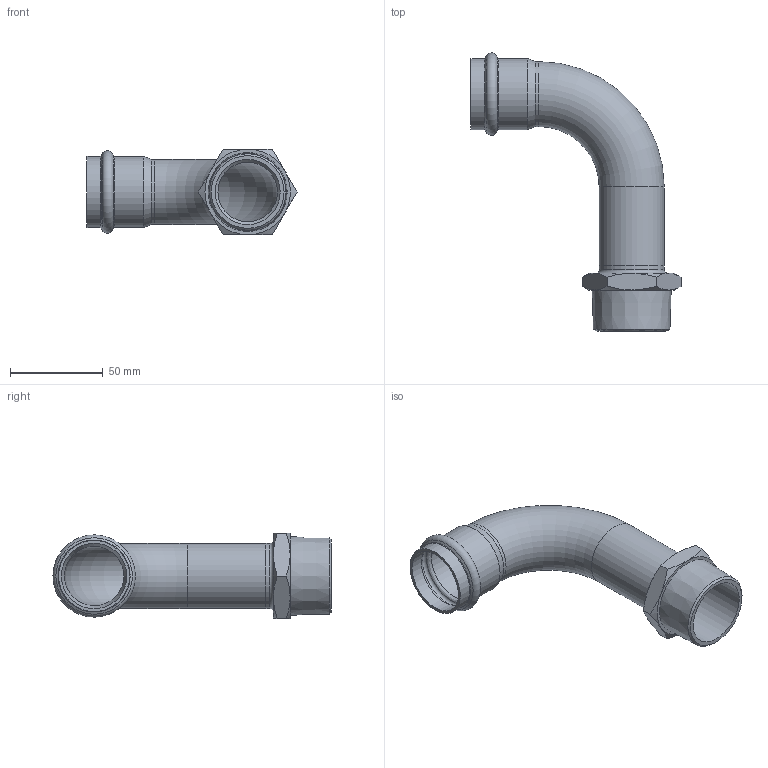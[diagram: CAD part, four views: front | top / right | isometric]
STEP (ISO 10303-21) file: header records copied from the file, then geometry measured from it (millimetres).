
FILE_DESCRIPTION((''),'2;1');
FILE_NAME('G:\Nirosan-Schmiedefeld\Technics\CAD\Bauteile VA\035\69002AG35114(1).stp','2011-09-06T11:20:55',('herberg'),(''),'Autodesk Inventor 2009','Autodesk Inventor 2009','');
FILE_SCHEMA(('AUTOMOTIVE_DESIGN { 1 0 10303 214 1 1 1 1 }'));
Length unit declared in the file: millimetre
Products named in the file (3): 69002AG35114(1); 69001A35(1); AG35114(3)
Assembly tree (2 placements, depth 2):
  69002AG35114(1)
    69001A35(1)
    AG35114(3)
Bounding box: 113.06 x 149.65 x 46 mm (x, y, z)
Volume: 44225.5 mm3; surface area: 45152.3 mm2
Topology: 2 solids, 2 shells, 51 faces, 109 edges, 64 vertices
Faces by surface type: cone 18, plane 12, cylinder 9, bspline 8, torus 4
Full cylindrical faces by diameter (mm): 32 x2, 35 x3, 35.25 x2, 38.25 x2
Entity records: 1459 total; most frequent: CARTESIAN_POINT 505, DIRECTION 190, ORIENTED_EDGE 148, AXIS2_PLACEMENT_3D 92, EDGE_LOOP 84, EDGE_CURVE 74, VERTEX_POINT 56, FACE_OUTER_BOUND 51
